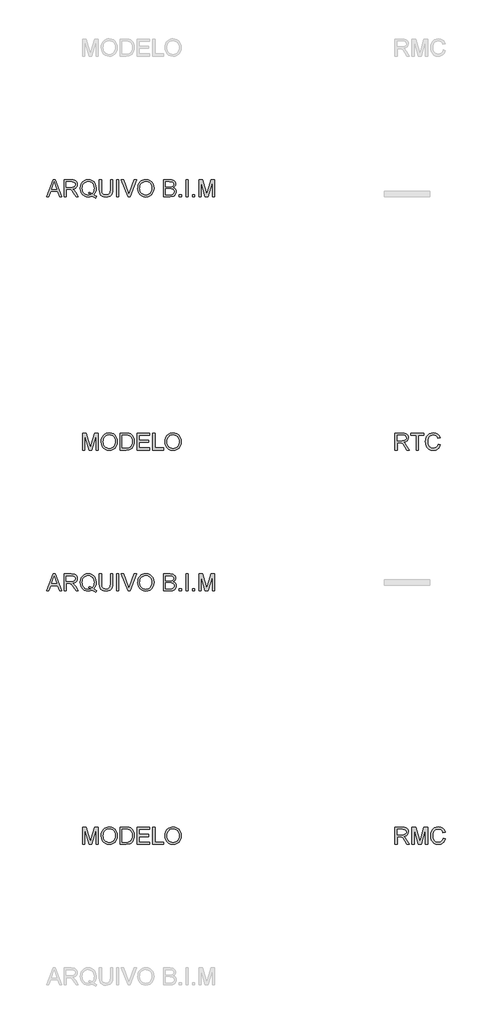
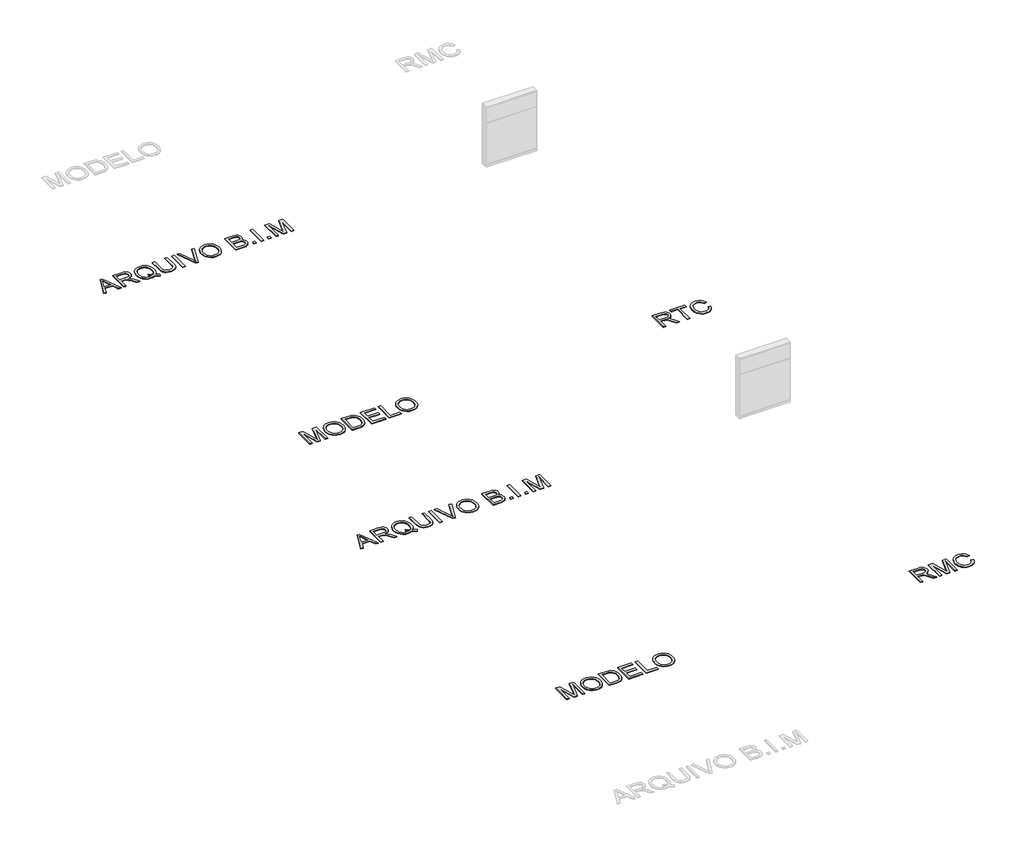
# One storey, part 13 of 15: 6 proxies.
"""IFC4 building model written with IfcOpenShell, lengths in millimetres."""

import ifcopenshell
import ifcopenshell.guid

model = None  # the IFC model being written
_history = None  # IfcOwnerHistory: only IFC2X3 demands one
_inside = {}  # id of a spatial element -> (the spatial element, [elements in it])
_under = {}  # id of a project, library or spatial element -> (it, [spatial elements below it])
_declared = {}  # id of a project -> (the project, [libraries it declares])
_typed = {}  # id of a type object -> (the type object, [elements of that type])
_made_of = {}  # id of a material, layer set ... -> (it, [elements and type objects made of it])


def new_model(schema):
    """Start an empty IFC model of exactly this schema.

    Asked for "IFC4X3", IfcOpenShell would pick the latest addendum, in which some entities
    have other attributes; the version numbers below select the first issue.
    IFC2X3 requires an IfcOwnerHistory on every rooted entity: one is made here for all.
    """
    global model, _history
    if schema == "IFC4X3":
        model = ifcopenshell.file(schema_version=(4, 3, 0, 0))
    else:
        model = ifcopenshell.file(schema=schema)
    _inside.clear()
    _under.clear()
    _declared.clear()
    _typed.clear()
    _made_of.clear()
    _history = None
    if model.schema == "IFC2X3":
        org = make("IfcOrganization", Name="unknown")
        user = make(
            "IfcPersonAndOrganization",
            ThePerson=make("IfcPerson", FamilyName="unknown"),
            TheOrganization=org,
        )
        app = make(
            "IfcApplication",
            ApplicationDeveloper=org,
            Version="unknown",
            ApplicationFullName="unknown",
            ApplicationIdentifier="unknown",
        )
        _history = make(
            "IfcOwnerHistory",
            OwningUser=user,
            OwningApplication=app,
            ChangeAction="ADDED",
            CreationDate=0,
        )
    return model


def make(cls, **values):
    """One entity of the class cls with the attributes given. An attribute that is None is left unset."""
    return model.create_entity(
        cls, **{name: value for name, value in values.items() if value is not None}
    )


def rooted(cls, **values):
    """An entity with a GlobalId (a new one), such as an element, a storey or a relation."""
    return make(cls, GlobalId=ifcopenshell.guid.new(), OwnerHistory=_history, **values)


def si_unit(unit_type, name, prefix=None):
    """IfcSIUnit, for example si_unit("LENGTHUNIT", "METRE", prefix="MILLI")."""
    return make("IfcSIUnit", UnitType=unit_type, Prefix=prefix, Name=name)


def assignment(units):
    """IfcUnitAssignment: the units of a project."""
    return None if units is None else make("IfcUnitAssignment", Units=units)


def point(xyz):
    """IfcCartesianPoint."""
    return None if xyz is None else make("IfcCartesianPoint", Coordinates=xyz)


def direction(xyz):
    """IfcDirection."""
    return None if xyz is None else make("IfcDirection", DirectionRatios=xyz)


def frame(location, z_axis=None, x_axis=None):
    """IfcAxis2Placement3D, a coordinate frame: its origin and axes. An axis left out is left unset."""
    return make(
        "IfcAxis2Placement3D",
        Location=point(location),
        Axis=direction(z_axis),
        RefDirection=direction(x_axis),
    )


def origin():
    """The frame at (0, 0, 0) with its axes left unset."""
    return frame((0.0, 0.0, 0.0))


def origin_with_axes():
    """The frame at (0, 0, 0) with the z axis (0, 0, 1) and the x axis (1, 0, 0) written out."""
    return frame((0.0, 0.0, 0.0), z_axis=(0.0, 0.0, 1.0), x_axis=(1.0, 0.0, 0.0))


def place(relative_to, where):
    """IfcLocalPlacement: puts the frame where relative to a parent placement (None: the world)."""
    return make(
        "IfcLocalPlacement", PlacementRelTo=relative_to, RelativePlacement=where
    )


def context(
    kind, dimensions, precision=None, world=None, true_north=None, identifier=None
):
    """IfcGeometricRepresentationContext, for example the 3D "Model" context."""
    return make(
        "IfcGeometricRepresentationContext",
        ContextIdentifier=identifier,
        ContextType=kind,
        CoordinateSpaceDimension=dimensions,
        Precision=precision,
        WorldCoordinateSystem=world,
        TrueNorth=true_north,
    )


def project(units=None, contexts=None):
    """IfcProject with its units and contexts."""
    return rooted(
        "IfcProject",
        Name="project",
        RepresentationContexts=contexts,
        UnitsInContext=assignment(units),
    )


def spatial(cls, under=None, at=None, **own):
    """A site, building, storey or space (cls), placed at a placement, below another one or the project."""
    s = rooted(cls, ObjectPlacement=at, **own)
    if under is not None:
        _under.setdefault(under.id(), (under, []))[1].append(s)
    return s


def polyline(points):
    """IfcPolyline through the points."""
    return make("IfcPolyline", Points=[point(p) for p in points])


def outline(outer, holes=None, kind="AREA"):
    """IfcArbitraryClosedProfileDef: a profile drawn as a closed curve; with holes, ...WithVoids."""
    if holes is None:
        return make("IfcArbitraryClosedProfileDef", ProfileType=kind, OuterCurve=outer)
    return make(
        "IfcArbitraryProfileDefWithVoids",
        ProfileType=kind,
        OuterCurve=outer,
        InnerCurves=holes,
    )


def extrude(swept, where, along, depth):
    """IfcExtrudedAreaSolid: the profile swept, set in the frame where, extruded along a direction by depth."""
    return make(
        "IfcExtrudedAreaSolid",
        SweptArea=swept,
        Position=where,
        ExtrudedDirection=direction(along),
        Depth=depth,
    )


def shape(context_of_items, identifier, shape_type, items):
    """IfcShapeRepresentation: the items that make up one representation, for example the "Body"."""
    return make(
        "IfcShapeRepresentation",
        ContextOfItems=context_of_items,
        RepresentationIdentifier=identifier,
        RepresentationType=shape_type,
        Items=items,
    )


def made_of(thing, what):
    """Note that an element or type object is made of a material, layer set ...; save() writes the relation."""
    if what is not None:
        _made_of.setdefault(what.id(), (what, []))[1].append(thing)
    return thing


def element(
    cls,
    number,
    at=None,
    inside=None,
    cuts=None,
    type_object=None,
    material=None,
    context=None,
    identifier="Body",
    shape_type=None,
    held_by="IfcProductDefinitionShape",
    body=None,
    shapes=None,
    **own,
):
    """One element of the class cls, such as IfcWall. Its Tag is "e" and its number.

    at: its placement. inside: the storey or other place that contains it. cuts: it is an
    opening in that element (IfcRelVoidsElement). A single representation is given by context,
    identifier, shape_type and body (its items); several are given by shapes. held_by: the class
    of the entity that holds the representations. save() writes the other relations.
    """
    e = rooted(cls, Tag="e%d" % number, ObjectPlacement=at, **own)
    if body is not None:
        shapes = [shape(context, identifier, shape_type, body)]
    if shapes is not None:
        e.Representation = make(held_by, Representations=shapes)
    if inside is not None:
        _inside.setdefault(inside.id(), (inside, []))[1].append(e)
    if cuts is not None:
        rooted(
            "IfcRelVoidsElement", RelatingBuildingElement=cuts, RelatedOpeningElement=e
        )
    if type_object is not None:
        _typed.setdefault(type_object.id(), (type_object, []))[1].append(e)
    return made_of(e, material)


def aggregate(whole, parts):
    """IfcRelAggregates: a whole, such as a stair, and the parts it consists of."""
    return rooted("IfcRelAggregates", RelatingObject=whole, RelatedObjects=parts)


def save(model, path):
    """Write the relations noted so far, then the file.

    IfcRelAggregates (storeys below a building ...), IfcRelContainedInSpatialStructure (elements
    in a storey), IfcRelDefinesByType, IfcRelAssociatesMaterial and IfcRelDeclares: one each for
    every whole, place, type object, material and project.
    """
    for whole, parts in _under.values():
        aggregate(whole, parts)
    for where, things in _inside.values():
        rooted(
            "IfcRelContainedInSpatialStructure",
            RelatedElements=things,
            RelatingStructure=where,
        )
    for kind, things in _typed.values():
        rooted("IfcRelDefinesByType", RelatedObjects=things, RelatingType=kind)
    for what, things in _made_of.values():
        rooted("IfcRelAssociatesMaterial", RelatedObjects=things, RelatingMaterial=what)
    for by, libraries in _declared.values():
        rooted("IfcRelDeclares", RelatingContext=by, RelatedDefinitions=libraries)
    model.write(path)


model = new_model("IFC4")

# Units and contexts
model_context = context("Model", 3, world=origin())
ifc_project = project(units=[si_unit("LENGTHUNIT", "METRE", prefix="MILLI")], contexts=[model_context])

# Site, building, storey
site = spatial("IfcSite", under=ifc_project)
building = spatial("IfcBuilding", under=site)
storey = spatial("IfcBuildingStorey", under=building, Name="Marelli - Linha REASONS - Planta Baixa", Elevation=0.0)

# Proxies
placement = place(None, origin())
element("IfcBuildingElementProxy", 1, Name="300mm Arial", ObjectType="300mm Arial", at=placement, inside=storey, context=model_context, shape_type="SweptSolid", body=[
    extrude(outline(polyline([(9390.580402, -14280.5663201), (9510.8778144, -13979.1973896), (9542.9571244, -13979.1973896), (9663.2545368, -14280.5663201), (9623.449705, -14280.5663201), (9588.9423738, -14186.3885293), (9464.8189886, -14186.3885293), (9430.3852339, -14280.5663201), (9390.580402, -14280.5663201)]), holes=[polyline([(9478.6513517, -14148.717413), (9575.1835872, -14148.717413), (9548.0338959, -14074.6259792), (9526.9174694, -14016.8685059), (9508.1554877, -14068.1512561), (9478.6513517, -14148.717413)])]), origin_with_axes(), (0.0, 0.0, 1.0), 10.0),
    extrude(outline(polyline([(9703.5008271, -14280.5663201), (9703.5008271, -13979.1973896), (9833.3631714, -13979.1973896), (9868.2659757, -13981.2299376), (9893.6590304, -13987.3275817), (9912.2186771, -13998.5847708), (9926.6212572, -14016.0959537), (9935.8642923, -14037.8101885), (9938.945304, -14061.6765329), (9933.8409413, -14091.3646099), (9918.5278533, -14115.9759154), (9906.9280741, -14126.0052983), (9892.5461874, -14134.0205273), (9855.4360911, -14144.0085235), (9876.8468232, -14160.1217548), (9907.3810288, -14198.8965171), (9957.6337094, -14280.5663201), (9913.855752, -14280.5663201), (9874.6395313, -14218.0999573), (9846.3126176, -14176.750021), (9826.4102017, -14157.2154871), (9808.4943485, -14150.0417882), (9786.642158, -14148.717413), (9741.1719434, -14148.717413), (9741.1719434, -14280.5663201), (9703.5008271, -14280.5663201)]), holes=[polyline([(9741.1719434, -14111.0462967), (9825.4904967, -14111.0462967), (9849.706329, -14109.7127245), (9868.4959019, -14105.7120078), (9882.6409647, -14098.7774322), (9892.9232664, -14088.6422832), (9899.1864574, -14076.3826157), (9901.2741877, -14063.0744845), (9897.2918651, -14044.6987789), (9885.3448973, -14029.8915286), (9864.7894908, -14020.1242616), (9834.9818522, -14016.8685059), (9741.1719434, -14016.8685059), (9741.1719434, -14111.0462967)])]), origin_with_axes(), (0.0, 0.0, 1.0), 10.0),
    extrude(outline(polyline([(10231.2643374, -14244.4403081), (10255.5997314, -14263.036743), (10277.9853508, -14275.8574305), (10267.8318077, -14303.4485802), (10236.7641732, -14289.0460001), (10205.8069033, -14268.205485), (10170.9500843, -14281.0077785), (10132.5983863, -14285.2752096), (10094.0627473, -14280.3547879), (10059.2427164, -14265.5935229), (10030.0788713, -14241.9203165), (10008.5117893, -14210.2640708), (9995.185264, -14172.3630282), (9990.7430889, -14129.9554312), (9995.176067, -14087.511046), (10008.4750011, -14049.0581805), (10029.9593096, -14016.9512794), (10058.9484108, -13993.5447874), (10093.639683, -13979.2525719), (10132.2305043, -13974.4885001), (10171.1248282, -13979.3629365), (10205.9908443, -13993.9862458), (10234.9339603, -14017.3835407), (10256.0595839, -14048.5799339), (10268.9722419, -14085.9199564), (10273.2764612, -14127.7481393), (10270.6644991, -14162.5313819), (10262.8286126, -14193.5990164), (10249.7136194, -14220.9142546), (10231.2643374, -14244.4403081)]), holes=[polyline([(10142.9726585, -14194.3347804), (10174.6472983, -14206.3093393), (10200.215097, -14222.9559996), (10215.6983305, -14205.4816049), (10226.7577829, -14184.1076609), (10233.3934544, -14158.8341679), (10235.6053449, -14129.6611256), (10232.478348, -14096.5057608), (10223.0973571, -14067.8201623), (10207.6922985, -14044.3308969), (10186.4930986, -14026.7645316), (10160.934497, -14015.8108452), (10132.4512335, -14012.1596164), (10110.966925, -14014.0059242), (10091.3956028, -14019.5448474), (10073.7372671, -14028.7763863), (10057.9919177, -14041.7005406), (10045.0516685, -14058.2897193), (10035.8086334, -14078.5163313), (10030.2628123, -14102.3803764), (10028.4142052, -14129.8818548), (10030.2421189, -14156.6659634), (10035.7258599, -14180.1437324), (10044.8654282, -14200.3151621), (10057.6608239, -14217.1802523), (10073.2981079, -14230.4906827), (10090.9633415, -14239.9981331), (10110.6565245, -14245.7026032), (10132.3776571, -14247.6040933), (10153.2917485, -14245.6727128), (10172.918253, -14239.8785714), (10153.6228423, -14229.853787), (10133.2605739, -14223.1767288), (10142.9726585, -14194.3347804)])]), origin_with_axes(), (0.0, 0.0, 1.0), 10.0),
    extrude(outline(polyline([(10527.5564963, -13979.1973896), (10565.2276126, -13979.1973896), (10565.2276126, -14153.0584205), (10562.6708327, -14193.7737604), (10555.0004931, -14225.1265034), (10540.6714894, -14249.3147446), (10518.1387172, -14268.5365788), (10487.3469942, -14281.0905519), (10448.2411381, -14285.2752096), (10409.9906077, -14281.6331779), (10379.4104168, -14270.7070826), (10356.4913685, -14252.8740029), (10341.2242657, -14228.5110178), (10332.6434182, -14195.8338995), (10329.7831357, -14153.0584205), (10329.7831357, -13979.1973896), (10367.454252, -13979.1973896), (10367.454252, -14151.7340454), (10369.3120561, -14185.588386), (10374.8854683, -14209.1604248), (10384.9838291, -14225.4851883), (10400.4164788, -14237.597703), (10420.5396239, -14245.1024957), (10444.709471, -14247.6040933), (10483.0243808, -14242.6560805), (10497.3671801, -14236.4710644), (10508.500209, -14227.812042), (10516.8373347, -14215.6351479), (10522.7924245, -14198.8965171), (10527.5564963, -14151.7340454), (10527.5564963, -13979.1973896)])), origin_with_axes(), (0.0, 0.0, 1.0), 10.0),
    extrude(outline(polyline([(10635.8609557, -14280.5663201), (10635.8609557, -13979.1973896), (10673.532072, -13979.1973896), (10673.532072, -14280.5663201), (10635.8609557, -14280.5663201)])), origin_with_axes(), (0.0, 0.0, 1.0), 10.0),
    extrude(outline(polyline([(10837.9017474, -14280.5663201), (10717.972217, -13979.1973896), (10758.2920837, -13979.1973896), (10838.563935, -14196.3213432), (10854.8243192, -14245.2496485), (10870.8639742, -14196.3213432), (10951.3565547, -13979.1973896), (10991.6764214, -13979.1973896), (10876.8236625, -14280.5663201), (10837.9017474, -14280.5663201)])), origin_with_axes(), (0.0, 0.0, 1.0), 10.0),
    extrude(outline(polyline([(11012.5721187, -14133.8549804), (11015.0829134, -14098.5061192), (11022.6152972, -14067.213157), (11035.1692703, -14039.9760937), (11052.7448326, -14016.7949295), (11074.288922, -13998.2858666), (11098.7484761, -13985.0651074), (11126.1234951, -13977.1326519), (11156.4139789, -13974.4885001), (11195.9428992, -13979.454907), (11231.3883295, -13994.3541278), (11260.8188891, -14018.1376988), (11282.3031976, -14049.7571563), (11295.4365848, -14087.68579), (11299.8143806, -14130.3968896), (11295.2066586, -14173.6782064), (11281.3834926, -14212.140269), (11259.1082378, -14243.8149088), (11229.1442493, -14266.733957), (11194.0023217, -14280.6398965), (11156.1932497, -14285.2752096), (11116.057324, -14280.1524528), (11080.4095587, -14264.7841825), (11051.0525754, -14240.5591531), (11029.7889961, -14208.8661192), (11016.8763381, -14172.3998164), (11012.5721187, -14133.8549804)]), holes=[polyline([(11050.2432351, -14134.2228624), (11052.126331, -14159.1974513), (11057.7756189, -14181.3669401), (11067.1910987, -14200.7313286), (11080.3727705, -14217.2906169), (11096.3963306, -14230.5527628), (11114.3374757, -14240.0257242), (11134.1962056, -14245.709501), (11155.9725205, -14247.6040933), (11178.1213158, -14245.6911069), (11198.2145706, -14239.9521478), (11216.2522846, -14230.3872159), (11232.2344581, -14216.9963113), (11245.3195608, -14200.0875351), (11254.6660627, -14179.9689885), (11260.2739639, -14156.6406715), (11262.1432643, -14130.102584), (11258.9426909, -14096.7540812), (11249.3409708, -14067.9305269), (11233.5864244, -14044.358488), (11211.9273719, -14026.7645316), (11185.7985532, -14015.8108452), (11156.6347081, -14012.1596164), (11135.6148506, -14013.9185522), (11116.1125063, -14019.1953595), (11098.1276752, -14027.9900385), (11081.6603574, -14040.302589), (11067.9153664, -14056.7262208), (11058.0975156, -14077.8541437), (11052.2068052, -14103.6863575), (11050.2432351, -14134.2228624)])]), origin_with_axes(), (0.0, 0.0, 1.0), 10.0),
    extrude(outline(polyline([(11469.334404, -14280.5663201), (11469.334404, -13979.1973896), (11584.3343157, -13979.1973896), (11615.9629702, -13981.4138786), (11640.6570491, -13988.0633457), (11659.5845778, -13999.3113377), (11673.9135815, -14015.3234015), (11682.9358874, -14034.1589597), (11685.9433227, -14053.8774346), (11683.414134, -14072.0232141), (11675.8265679, -14089.0837416), (11663.125442, -14104.0105535), (11645.2555741, -14115.7551862), (11666.6019268, -14126.9020107), (11682.3748674, -14143.8613707), (11692.1145432, -14165.5112261), (11695.3611018, -14190.7295368), (11693.1446128, -14211.7447958), (11686.4951457, -14231.2333445), (11676.5715289, -14247.8064284), (11664.5325906, -14260.0752929), (11649.7897196, -14268.9596431), (11631.7543048, -14275.3791839), (11583.4513989, -14280.5663201), (11469.334404, -14280.5663201)]), holes=[polyline([(11507.0055203, -14101.6285176), (11575.7994534, -14101.6285176), (11615.9721672, -14098.3911561), (11630.0344565, -14092.8085468), (11640.1420143, -14084.4484284), (11646.2396584, -14073.4395597), (11648.2722064, -14059.9106994), (11646.3776141, -14046.7773121), (11640.6938373, -14035.3361821), (11631.4783933, -14026.4058467), (11618.9887996, -14020.8048433), (11570.575529, -14016.8685059), (11507.0055203, -14016.8685059), (11507.0055203, -14101.6285176)]), polyline([(11507.0055203, -14242.8952038), (11584.2607393, -14242.8952038), (11612.2197709, -14241.4236758), (11635.8745832, -14233.2199073), (11651.5463562, -14216.4812765), (11656.1540782, -14204.6538704), (11657.6899855, -14191.0974188), (11655.8873637, -14175.3520694), (11650.4794984, -14161.814012), (11641.0341282, -14151.2282076), (11627.1189917, -14144.3396173), (11607.4097138, -14140.5596298), (11580.5819193, -14139.2996339), (11507.0055203, -14139.2996339), (11507.0055203, -14242.8952038)])]), origin_with_axes(), (0.0, 0.0, 1.0), 10.0),
    extrude(outline(polyline([(11751.8677763, -14280.5663201), (11751.8677763, -14242.8952038), (11789.5388926, -14242.8952038), (11789.5388926, -14280.5663201), (11751.8677763, -14280.5663201)])), origin_with_axes(), (0.0, 0.0, 1.0), 10.0),
    extrude(outline(polyline([(11869.5900147, -14280.5663201), (11869.5900147, -13979.1973896), (11907.261131, -13979.1973896), (11907.261131, -14280.5663201), (11869.5900147, -14280.5663201)])), origin_with_axes(), (0.0, 0.0, 1.0), 10.0),
    extrude(outline(polyline([(11987.3122532, -14280.5663201), (11987.3122532, -14242.8952038), (12024.9833695, -14242.8952038), (12024.9833695, -14280.5663201), (11987.3122532, -14280.5663201)])), origin_with_axes(), (0.0, 0.0, 1.0), 10.0),
    extrude(outline(polyline([(12100.3256021, -14280.5663201), (12100.3256021, -13979.1973896), (12165.1464096, -13979.1973896), (12226.803432, -14191.6124536), (12239.2378435, -14235.9790223), (12252.7023245, -14187.9336337), (12313.3292773, -13979.1973896), (12378.1500848, -13979.1973896), (12378.1500848, -14280.5663201), (12340.4789685, -14280.5663201), (12340.4789685, -14016.8685059), (12264.7688539, -14280.5663201), (12213.706833, -14280.5663201), (12137.9967184, -14016.8685059), (12137.9967184, -14280.5663201), (12100.3256021, -14280.5663201)])), origin_with_axes(), (0.0, 0.0, 1.0), 10.0),
])
element("IfcBuildingElementProxy", 2, Name="300mm Arial", ObjectType="300mm Arial", at=placement, inside=storey, context=model_context, shape_type="SweptSolid", body=[
    extrude(outline(polyline([(10033.1230948, -11780.5663201), (10033.1230948, -11479.1973896), (10097.9439023, -11479.1973896), (10159.6009247, -11691.6124536), (10172.0353362, -11735.9790223), (10185.4998172, -11687.9336337), (10246.12677, -11479.1973896), (10310.9475775, -11479.1973896), (10310.9475775, -11780.5663201), (10273.2764612, -11780.5663201), (10273.2764612, -11516.8685059), (10197.5663466, -11780.5663201), (10146.5043257, -11780.5663201), (10070.7942111, -11516.8685059), (10070.7942111, -11780.5663201), (10033.1230948, -11780.5663201)])), origin_with_axes(), (0.0, 0.0, 1.0), 10.0),
    extrude(outline(polyline([(10362.7453625, -11633.8549804), (10365.2561571, -11598.5061192), (10372.7885409, -11567.213157), (10385.342514, -11539.9760937), (10402.9180763, -11516.7949295), (10424.4621657, -11498.2858666), (10448.9217198, -11485.0651074), (10476.2967388, -11477.1326519), (10506.5872226, -11474.4885001), (10546.116143, -11479.454907), (10581.5615732, -11494.3541278), (10610.9921328, -11518.1376988), (10632.4764413, -11549.7571563), (10645.6098286, -11587.68579), (10649.9876243, -11630.3968896), (10645.3799023, -11673.6782064), (10631.5567363, -11712.140269), (10609.2814815, -11743.8149088), (10579.317493, -11766.733957), (10544.1755654, -11780.6398965), (10506.3664934, -11785.2752096), (10466.2305677, -11780.1524528), (10430.5828024, -11764.7841825), (10401.2258192, -11740.5591531), (10379.9622398, -11708.8661192), (10367.0495818, -11672.3998164), (10362.7453625, -11633.8549804)]), holes=[polyline([(10400.4164788, -11634.2228624), (10402.2995747, -11659.1974513), (10407.9488626, -11681.3669401), (10417.3643424, -11700.7313286), (10430.5460142, -11717.2906169), (10446.5695743, -11730.5527628), (10464.5107194, -11740.0257242), (10484.3694493, -11745.709501), (10506.1457642, -11747.6040933), (10528.2945596, -11745.6911069), (10548.3878143, -11739.9521478), (10566.4255284, -11730.3872159), (10582.4077018, -11716.9963113), (10595.4928045, -11700.0875351), (10604.8393064, -11679.9689885), (10610.4472076, -11656.6406715), (10612.316508, -11630.102584), (10609.1159346, -11596.7540812), (10599.5142146, -11567.9305269), (10583.7596681, -11544.358488), (10562.1006157, -11526.7645316), (10535.9717969, -11515.8108452), (10506.8079518, -11512.1596164), (10485.7880943, -11513.9185522), (10466.28575, -11519.1953595), (10448.300919, -11527.9900385), (10431.8336012, -11540.302589), (10418.0886101, -11556.7262208), (10408.2707594, -11577.8541437), (10402.3800489, -11603.6863575), (10400.4164788, -11634.2228624)])]), origin_with_axes(), (0.0, 0.0, 1.0), 10.0),
    extrude(outline(polyline([(10701.7854092, -11780.5663201), (10701.7854092, -11479.1973896), (10805.7488611, -11479.1973896), (10859.5332088, -11483.5383972), (10883.555903, -11491.9077126), (10903.826201, -11505.0962821), (10924.666716, -11528.0521186), (10939.5107545, -11556.5997614), (10948.3951047, -11590.1873876), (10951.3565547, -11628.2631741), (10949.3515979, -11660.6091985), (10943.3367273, -11689.0740679), (10934.1764656, -11713.3082943), (10922.7353355, -11732.9623899), (10909.5651601, -11748.477813), (10895.2177623, -11760.2960221), (10878.745846, -11769.0608107), (10859.202115, -11775.4159721), (10810.7520562, -11780.5663201), (10701.7854092, -11780.5663201)]), holes=[polyline([(10739.4565255, -11742.8952038), (10806.1167431, -11742.8952038), (10833.6894986, -11741.5340404), (10854.60359, -11737.4505502), (10870.3857276, -11730.8838566), (10882.5626217, -11722.0730828), (10895.6500236, -11705.7667134), (10905.48167, -11684.6594839), (10911.6344963, -11658.6594239), (10913.6854384, -11627.6745629), (10909.6663276, -11586.6189322), (10897.6089953, -11556.3054558), (10879.7943096, -11535.4833349), (10858.5031392, -11522.9017706), (10836.8348897, -11518.3768221), (10805.0866735, -11516.8685059), (10739.4565255, -11516.8685059), (10739.4565255, -11742.8952038)])]), origin_with_axes(), (0.0, 0.0, 1.0), 10.0),
    extrude(outline(polyline([(11003.1543397, -11780.5663201), (11003.1543397, -11479.1973896), (11219.7632584, -11479.1973896), (11219.7632584, -11516.8685059), (11040.825456, -11516.8685059), (11040.825456, -11606.3374072), (11210.3454794, -11606.3374072), (11210.3454794, -11644.0085235), (11040.825456, -11644.0085235), (11040.825456, -11742.8952038), (11224.472148, -11742.8952038), (11224.472148, -11780.5663201), (11003.1543397, -11780.5663201)])), origin_with_axes(), (0.0, 0.0, 1.0), 10.0),
    extrude(outline(polyline([(11280.9788224, -11780.5663201), (11280.9788224, -11479.1973896), (11318.6499387, -11479.1973896), (11318.6499387, -11742.8952038), (11469.334404, -11742.8952038), (11469.334404, -11780.5663201), (11280.9788224, -11780.5663201)])), origin_with_axes(), (0.0, 0.0, 1.0), 10.0),
    extrude(outline(polyline([(11497.5877412, -11633.8549804), (11500.0985358, -11598.5061192), (11507.6309197, -11567.213157), (11520.1848927, -11539.9760937), (11537.7604551, -11516.7949295), (11559.3045444, -11498.2858666), (11583.7640986, -11485.0651074), (11611.1391175, -11477.1326519), (11641.4296013, -11474.4885001), (11680.9585217, -11479.454907), (11716.4039519, -11494.3541278), (11745.8345115, -11518.1376988), (11767.3188201, -11549.7571563), (11780.4522073, -11587.68579), (11784.830003, -11630.3968896), (11780.222281, -11673.6782064), (11766.3991151, -11712.140269), (11744.1238603, -11743.8149088), (11714.1598717, -11766.733957), (11679.0179442, -11780.6398965), (11641.2088721, -11785.2752096), (11601.0729464, -11780.1524528), (11565.4251811, -11764.7841825), (11536.0681979, -11740.5591531), (11514.8046186, -11708.8661192), (11501.8919605, -11672.3998164), (11497.5877412, -11633.8549804)]), holes=[polyline([(11535.2588575, -11634.2228624), (11537.1419535, -11659.1974513), (11542.7912413, -11681.3669401), (11552.2067212, -11700.7313286), (11565.3883929, -11717.2906169), (11581.4119531, -11730.5527628), (11599.3530981, -11740.0257242), (11619.2118281, -11745.709501), (11640.9881429, -11747.6040933), (11663.1369383, -11745.6911069), (11683.230193, -11739.9521478), (11701.2679071, -11730.3872159), (11717.2500805, -11716.9963113), (11730.3351832, -11700.0875351), (11739.6816852, -11679.9689885), (11745.2895863, -11656.6406715), (11747.1588867, -11630.102584), (11743.9583134, -11596.7540812), (11734.3565933, -11567.9305269), (11718.6020468, -11544.358488), (11696.9429944, -11526.7645316), (11670.8141757, -11515.8108452), (11641.6503305, -11512.1596164), (11620.630473, -11513.9185522), (11601.1281287, -11519.1953595), (11583.1432977, -11527.9900385), (11566.6759799, -11540.302589), (11552.9309888, -11556.7262208), (11543.1131381, -11577.8541437), (11537.2224276, -11603.6863575), (11535.2588575, -11634.2228624)])]), origin_with_axes(), (0.0, 0.0, 1.0), 10.0),
])
element("IfcBuildingElementProxy", 3, Name="300mm Arial", ObjectType="300mm Arial", at=placement, inside=storey, context=model_context, shape_type="SweptSolid", body=[
    extrude(outline(polyline([(9390.580402, -7280.5663201), (9510.8778144, -6979.1973896), (9542.9571244, -6979.1973896), (9663.2545368, -7280.5663201), (9623.449705, -7280.5663201), (9588.9423738, -7186.3885293), (9464.8189886, -7186.3885293), (9430.3852339, -7280.5663201), (9390.580402, -7280.5663201)]), holes=[polyline([(9478.6513517, -7148.717413), (9575.1835872, -7148.717413), (9548.0338959, -7074.6259792), (9526.9174694, -7016.8685059), (9508.1554877, -7068.1512561), (9478.6513517, -7148.717413)])]), origin_with_axes(), (0.0, 0.0, 1.0), 10.0),
    extrude(outline(polyline([(9703.5008271, -7280.5663201), (9703.5008271, -6979.1973896), (9833.3631714, -6979.1973896), (9868.2659757, -6981.2299376), (9893.6590304, -6987.3275817), (9912.2186771, -6998.5847708), (9926.6212572, -7016.0959537), (9935.8642923, -7037.8101885), (9938.945304, -7061.6765329), (9933.8409413, -7091.3646099), (9918.5278533, -7115.9759154), (9906.9280741, -7126.0052983), (9892.5461874, -7134.0205273), (9855.4360911, -7144.0085235), (9876.8468232, -7160.1217548), (9907.3810288, -7198.8965171), (9957.6337094, -7280.5663201), (9913.855752, -7280.5663201), (9874.6395313, -7218.0999573), (9846.3126176, -7176.750021), (9826.4102017, -7157.2154871), (9808.4943485, -7150.0417882), (9786.642158, -7148.717413), (9741.1719434, -7148.717413), (9741.1719434, -7280.5663201), (9703.5008271, -7280.5663201)]), holes=[polyline([(9741.1719434, -7111.0462967), (9825.4904967, -7111.0462967), (9849.706329, -7109.7127245), (9868.4959019, -7105.7120078), (9882.6409647, -7098.7774322), (9892.9232664, -7088.6422832), (9899.1864574, -7076.3826157), (9901.2741877, -7063.0744845), (9897.2918651, -7044.6987789), (9885.3448973, -7029.8915286), (9864.7894908, -7020.1242616), (9834.9818522, -7016.8685059), (9741.1719434, -7016.8685059), (9741.1719434, -7111.0462967)])]), origin_with_axes(), (0.0, 0.0, 1.0), 10.0),
    extrude(outline(polyline([(10231.2643374, -7244.4403081), (10255.5997314, -7263.036743), (10277.9853508, -7275.8574305), (10267.8318077, -7303.4485802), (10236.7641732, -7289.0460001), (10205.8069033, -7268.205485), (10170.9500843, -7281.0077785), (10132.5983863, -7285.2752096), (10094.0627473, -7280.3547879), (10059.2427164, -7265.5935229), (10030.0788713, -7241.9203165), (10008.5117893, -7210.2640708), (9995.185264, -7172.3630282), (9990.7430889, -7129.9554312), (9995.176067, -7087.511046), (10008.4750011, -7049.0581805), (10029.9593096, -7016.9512794), (10058.9484108, -6993.5447874), (10093.639683, -6979.2525719), (10132.2305043, -6974.4885001), (10171.1248282, -6979.3629365), (10205.9908443, -6993.9862458), (10234.9339603, -7017.3835407), (10256.0595839, -7048.5799339), (10268.9722419, -7085.9199564), (10273.2764612, -7127.7481393), (10270.6644991, -7162.5313819), (10262.8286126, -7193.5990164), (10249.7136194, -7220.9142546), (10231.2643374, -7244.4403081)]), holes=[polyline([(10142.9726585, -7194.3347804), (10174.6472983, -7206.3093393), (10200.215097, -7222.9559996), (10215.6983305, -7205.4816049), (10226.7577829, -7184.1076609), (10233.3934544, -7158.8341679), (10235.6053449, -7129.6611256), (10232.478348, -7096.5057608), (10223.0973571, -7067.8201623), (10207.6922985, -7044.3308969), (10186.4930986, -7026.7645316), (10160.934497, -7015.8108452), (10132.4512335, -7012.1596164), (10110.966925, -7014.0059242), (10091.3956028, -7019.5448474), (10073.7372671, -7028.7763863), (10057.9919177, -7041.7005406), (10045.0516685, -7058.2897193), (10035.8086334, -7078.5163313), (10030.2628123, -7102.3803764), (10028.4142052, -7129.8818548), (10030.2421189, -7156.6659634), (10035.7258599, -7180.1437324), (10044.8654282, -7200.3151621), (10057.6608239, -7217.1802523), (10073.2981079, -7230.4906827), (10090.9633415, -7239.9981331), (10110.6565245, -7245.7026032), (10132.3776571, -7247.6040933), (10153.2917485, -7245.6727128), (10172.918253, -7239.8785714), (10153.6228423, -7229.853787), (10133.2605739, -7223.1767288), (10142.9726585, -7194.3347804)])]), origin_with_axes(), (0.0, 0.0, 1.0), 10.0),
    extrude(outline(polyline([(10527.5564963, -6979.1973896), (10565.2276126, -6979.1973896), (10565.2276126, -7153.0584205), (10562.6708327, -7193.7737604), (10555.0004931, -7225.1265034), (10540.6714894, -7249.3147446), (10518.1387172, -7268.5365788), (10487.3469942, -7281.0905519), (10448.2411381, -7285.2752096), (10409.9906077, -7281.6331779), (10379.4104168, -7270.7070826), (10356.4913685, -7252.8740029), (10341.2242657, -7228.5110178), (10332.6434182, -7195.8338995), (10329.7831357, -7153.0584205), (10329.7831357, -6979.1973896), (10367.454252, -6979.1973896), (10367.454252, -7151.7340454), (10369.3120561, -7185.588386), (10374.8854683, -7209.1604248), (10384.9838291, -7225.4851883), (10400.4164788, -7237.597703), (10420.5396239, -7245.1024957), (10444.709471, -7247.6040933), (10483.0243808, -7242.6560805), (10497.3671801, -7236.4710644), (10508.500209, -7227.812042), (10516.8373347, -7215.6351479), (10522.7924245, -7198.8965171), (10527.5564963, -7151.7340454), (10527.5564963, -6979.1973896)])), origin_with_axes(), (0.0, 0.0, 1.0), 10.0),
    extrude(outline(polyline([(10635.8609557, -7280.5663201), (10635.8609557, -6979.1973896), (10673.532072, -6979.1973896), (10673.532072, -7280.5663201), (10635.8609557, -7280.5663201)])), origin_with_axes(), (0.0, 0.0, 1.0), 10.0),
    extrude(outline(polyline([(10837.9017474, -7280.5663201), (10717.972217, -6979.1973896), (10758.2920837, -6979.1973896), (10838.563935, -7196.3213432), (10854.8243192, -7245.2496485), (10870.8639742, -7196.3213432), (10951.3565547, -6979.1973896), (10991.6764214, -6979.1973896), (10876.8236625, -7280.5663201), (10837.9017474, -7280.5663201)])), origin_with_axes(), (0.0, 0.0, 1.0), 10.0),
    extrude(outline(polyline([(11012.5721187, -7133.8549804), (11015.0829134, -7098.5061192), (11022.6152972, -7067.213157), (11035.1692703, -7039.9760937), (11052.7448326, -7016.7949295), (11074.288922, -6998.2858666), (11098.7484761, -6985.0651074), (11126.1234951, -6977.1326519), (11156.4139789, -6974.4885001), (11195.9428992, -6979.454907), (11231.3883295, -6994.3541278), (11260.8188891, -7018.1376988), (11282.3031976, -7049.7571563), (11295.4365848, -7087.68579), (11299.8143806, -7130.3968896), (11295.2066586, -7173.6782064), (11281.3834926, -7212.140269), (11259.1082378, -7243.8149088), (11229.1442493, -7266.733957), (11194.0023217, -7280.6398965), (11156.1932497, -7285.2752096), (11116.057324, -7280.1524528), (11080.4095587, -7264.7841825), (11051.0525754, -7240.5591531), (11029.7889961, -7208.8661192), (11016.8763381, -7172.3998164), (11012.5721187, -7133.8549804)]), holes=[polyline([(11050.2432351, -7134.2228624), (11052.126331, -7159.1974513), (11057.7756189, -7181.3669401), (11067.1910987, -7200.7313286), (11080.3727705, -7217.2906169), (11096.3963306, -7230.5527628), (11114.3374757, -7240.0257242), (11134.1962056, -7245.709501), (11155.9725205, -7247.6040933), (11178.1213158, -7245.6911069), (11198.2145706, -7239.9521478), (11216.2522846, -7230.3872159), (11232.2344581, -7216.9963113), (11245.3195608, -7200.0875351), (11254.6660627, -7179.9689885), (11260.2739639, -7156.6406715), (11262.1432643, -7130.102584), (11258.9426909, -7096.7540812), (11249.3409708, -7067.9305269), (11233.5864244, -7044.358488), (11211.9273719, -7026.7645316), (11185.7985532, -7015.8108452), (11156.6347081, -7012.1596164), (11135.6148506, -7013.9185522), (11116.1125063, -7019.1953595), (11098.1276752, -7027.9900385), (11081.6603574, -7040.302589), (11067.9153664, -7056.7262208), (11058.0975156, -7077.8541437), (11052.2068052, -7103.6863575), (11050.2432351, -7134.2228624)])]), origin_with_axes(), (0.0, 0.0, 1.0), 10.0),
    extrude(outline(polyline([(11469.334404, -7280.5663201), (11469.334404, -6979.1973896), (11584.3343157, -6979.1973896), (11615.9629702, -6981.4138786), (11640.6570491, -6988.0633457), (11659.5845778, -6999.3113377), (11673.9135815, -7015.3234015), (11682.9358874, -7034.1589597), (11685.9433227, -7053.8774346), (11683.414134, -7072.0232141), (11675.8265679, -7089.0837416), (11663.125442, -7104.0105535), (11645.2555741, -7115.7551862), (11666.6019268, -7126.9020107), (11682.3748674, -7143.8613707), (11692.1145432, -7165.5112261), (11695.3611018, -7190.7295368), (11693.1446128, -7211.7447958), (11686.4951457, -7231.2333445), (11676.5715289, -7247.8064284), (11664.5325906, -7260.0752929), (11649.7897196, -7268.9596431), (11631.7543048, -7275.3791839), (11583.4513989, -7280.5663201), (11469.334404, -7280.5663201)]), holes=[polyline([(11507.0055203, -7101.6285176), (11575.7994534, -7101.6285176), (11615.9721672, -7098.3911561), (11630.0344565, -7092.8085468), (11640.1420143, -7084.4484284), (11646.2396584, -7073.4395597), (11648.2722064, -7059.9106994), (11646.3776141, -7046.7773121), (11640.6938373, -7035.3361821), (11631.4783933, -7026.4058467), (11618.9887996, -7020.8048433), (11570.575529, -7016.8685059), (11507.0055203, -7016.8685059), (11507.0055203, -7101.6285176)]), polyline([(11507.0055203, -7242.8952038), (11584.2607393, -7242.8952038), (11612.2197709, -7241.4236758), (11635.8745832, -7233.2199073), (11651.5463562, -7216.4812765), (11656.1540782, -7204.6538704), (11657.6899855, -7191.0974188), (11655.8873637, -7175.3520694), (11650.4794984, -7161.814012), (11641.0341282, -7151.2282076), (11627.1189917, -7144.3396173), (11607.4097138, -7140.5596298), (11580.5819193, -7139.2996339), (11507.0055203, -7139.2996339), (11507.0055203, -7242.8952038)])]), origin_with_axes(), (0.0, 0.0, 1.0), 10.0),
    extrude(outline(polyline([(11751.8677763, -7280.5663201), (11751.8677763, -7242.8952038), (11789.5388926, -7242.8952038), (11789.5388926, -7280.5663201), (11751.8677763, -7280.5663201)])), origin_with_axes(), (0.0, 0.0, 1.0), 10.0),
    extrude(outline(polyline([(11869.5900147, -7280.5663201), (11869.5900147, -6979.1973896), (11907.261131, -6979.1973896), (11907.261131, -7280.5663201), (11869.5900147, -7280.5663201)])), origin_with_axes(), (0.0, 0.0, 1.0), 10.0),
    extrude(outline(polyline([(11987.3122532, -7280.5663201), (11987.3122532, -7242.8952038), (12024.9833695, -7242.8952038), (12024.9833695, -7280.5663201), (11987.3122532, -7280.5663201)])), origin_with_axes(), (0.0, 0.0, 1.0), 10.0),
    extrude(outline(polyline([(12100.3256021, -7280.5663201), (12100.3256021, -6979.1973896), (12165.1464096, -6979.1973896), (12226.803432, -7191.6124536), (12239.2378435, -7235.9790223), (12252.7023245, -7187.9336337), (12313.3292773, -6979.1973896), (12378.1500848, -6979.1973896), (12378.1500848, -7280.5663201), (12340.4789685, -7280.5663201), (12340.4789685, -7016.8685059), (12264.7688539, -7280.5663201), (12213.706833, -7280.5663201), (12137.9967184, -7016.8685059), (12137.9967184, -7280.5663201), (12100.3256021, -7280.5663201)])), origin_with_axes(), (0.0, 0.0, 1.0), 10.0),
])
element("IfcBuildingElementProxy", 4, Name="300mm Arial", ObjectType="300mm Arial", at=placement, inside=storey, context=model_context, shape_type="SweptSolid", body=[
    extrude(outline(polyline([(10033.1230948, -18780.5663201), (10033.1230948, -18479.1973896), (10097.9439023, -18479.1973896), (10159.6009247, -18691.6124536), (10172.0353362, -18735.9790223), (10185.4998172, -18687.9336337), (10246.12677, -18479.1973896), (10310.9475775, -18479.1973896), (10310.9475775, -18780.5663201), (10273.2764612, -18780.5663201), (10273.2764612, -18516.8685059), (10197.5663466, -18780.5663201), (10146.5043257, -18780.5663201), (10070.7942111, -18516.8685059), (10070.7942111, -18780.5663201), (10033.1230948, -18780.5663201)])), origin_with_axes(), (0.0, 0.0, 1.0), 10.0),
    extrude(outline(polyline([(10362.7453625, -18633.8549804), (10365.2561571, -18598.5061192), (10372.7885409, -18567.213157), (10385.342514, -18539.9760937), (10402.9180763, -18516.7949295), (10424.4621657, -18498.2858666), (10448.9217198, -18485.0651074), (10476.2967388, -18477.1326519), (10506.5872226, -18474.4885001), (10546.116143, -18479.454907), (10581.5615732, -18494.3541278), (10610.9921328, -18518.1376988), (10632.4764413, -18549.7571563), (10645.6098286, -18587.68579), (10649.9876243, -18630.3968896), (10645.3799023, -18673.6782064), (10631.5567363, -18712.140269), (10609.2814815, -18743.8149088), (10579.317493, -18766.733957), (10544.1755654, -18780.6398965), (10506.3664934, -18785.2752096), (10466.2305677, -18780.1524528), (10430.5828024, -18764.7841825), (10401.2258192, -18740.5591531), (10379.9622398, -18708.8661192), (10367.0495818, -18672.3998164), (10362.7453625, -18633.8549804)]), holes=[polyline([(10400.4164788, -18634.2228624), (10402.2995747, -18659.1974513), (10407.9488626, -18681.3669401), (10417.3643424, -18700.7313286), (10430.5460142, -18717.2906169), (10446.5695743, -18730.5527628), (10464.5107194, -18740.0257242), (10484.3694493, -18745.709501), (10506.1457642, -18747.6040933), (10528.2945596, -18745.6911069), (10548.3878143, -18739.9521478), (10566.4255284, -18730.3872159), (10582.4077018, -18716.9963113), (10595.4928045, -18700.0875351), (10604.8393064, -18679.9689885), (10610.4472076, -18656.6406715), (10612.316508, -18630.102584), (10609.1159346, -18596.7540812), (10599.5142146, -18567.9305269), (10583.7596681, -18544.358488), (10562.1006157, -18526.7645316), (10535.9717969, -18515.8108452), (10506.8079518, -18512.1596164), (10485.7880943, -18513.9185522), (10466.28575, -18519.1953595), (10448.300919, -18527.9900385), (10431.8336012, -18540.302589), (10418.0886101, -18556.7262208), (10408.2707594, -18577.8541437), (10402.3800489, -18603.6863575), (10400.4164788, -18634.2228624)])]), origin_with_axes(), (0.0, 0.0, 1.0), 10.0),
    extrude(outline(polyline([(10701.7854092, -18780.5663201), (10701.7854092, -18479.1973896), (10805.7488611, -18479.1973896), (10859.5332088, -18483.5383972), (10883.555903, -18491.9077126), (10903.826201, -18505.0962821), (10924.666716, -18528.0521186), (10939.5107545, -18556.5997614), (10948.3951047, -18590.1873876), (10951.3565547, -18628.2631741), (10949.3515979, -18660.6091985), (10943.3367273, -18689.0740679), (10934.1764656, -18713.3082943), (10922.7353355, -18732.9623899), (10909.5651601, -18748.477813), (10895.2177623, -18760.2960221), (10878.745846, -18769.0608107), (10859.202115, -18775.4159721), (10810.7520562, -18780.5663201), (10701.7854092, -18780.5663201)]), holes=[polyline([(10739.4565255, -18742.8952038), (10806.1167431, -18742.8952038), (10833.6894986, -18741.5340404), (10854.60359, -18737.4505502), (10870.3857276, -18730.8838566), (10882.5626217, -18722.0730828), (10895.6500236, -18705.7667134), (10905.48167, -18684.6594839), (10911.6344963, -18658.6594239), (10913.6854384, -18627.6745629), (10909.6663276, -18586.6189322), (10897.6089953, -18556.3054558), (10879.7943096, -18535.4833349), (10858.5031392, -18522.9017706), (10836.8348897, -18518.3768221), (10805.0866735, -18516.8685059), (10739.4565255, -18516.8685059), (10739.4565255, -18742.8952038)])]), origin_with_axes(), (0.0, 0.0, 1.0), 10.0),
    extrude(outline(polyline([(11003.1543397, -18780.5663201), (11003.1543397, -18479.1973896), (11219.7632584, -18479.1973896), (11219.7632584, -18516.8685059), (11040.825456, -18516.8685059), (11040.825456, -18606.3374072), (11210.3454794, -18606.3374072), (11210.3454794, -18644.0085235), (11040.825456, -18644.0085235), (11040.825456, -18742.8952038), (11224.472148, -18742.8952038), (11224.472148, -18780.5663201), (11003.1543397, -18780.5663201)])), origin_with_axes(), (0.0, 0.0, 1.0), 10.0),
    extrude(outline(polyline([(11280.9788224, -18780.5663201), (11280.9788224, -18479.1973896), (11318.6499387, -18479.1973896), (11318.6499387, -18742.8952038), (11469.334404, -18742.8952038), (11469.334404, -18780.5663201), (11280.9788224, -18780.5663201)])), origin_with_axes(), (0.0, 0.0, 1.0), 10.0),
    extrude(outline(polyline([(11497.5877412, -18633.8549804), (11500.0985358, -18598.5061192), (11507.6309197, -18567.213157), (11520.1848927, -18539.9760937), (11537.7604551, -18516.7949295), (11559.3045444, -18498.2858666), (11583.7640986, -18485.0651074), (11611.1391175, -18477.1326519), (11641.4296013, -18474.4885001), (11680.9585217, -18479.454907), (11716.4039519, -18494.3541278), (11745.8345115, -18518.1376988), (11767.3188201, -18549.7571563), (11780.4522073, -18587.68579), (11784.830003, -18630.3968896), (11780.222281, -18673.6782064), (11766.3991151, -18712.140269), (11744.1238603, -18743.8149088), (11714.1598717, -18766.733957), (11679.0179442, -18780.6398965), (11641.2088721, -18785.2752096), (11601.0729464, -18780.1524528), (11565.4251811, -18764.7841825), (11536.0681979, -18740.5591531), (11514.8046186, -18708.8661192), (11501.8919605, -18672.3998164), (11497.5877412, -18633.8549804)]), holes=[polyline([(11535.2588575, -18634.2228624), (11537.1419535, -18659.1974513), (11542.7912413, -18681.3669401), (11552.2067212, -18700.7313286), (11565.3883929, -18717.2906169), (11581.4119531, -18730.5527628), (11599.3530981, -18740.0257242), (11619.2118281, -18745.709501), (11640.9881429, -18747.6040933), (11663.1369383, -18745.6911069), (11683.230193, -18739.9521478), (11701.2679071, -18730.3872159), (11717.2500805, -18716.9963113), (11730.3351832, -18700.0875351), (11739.6816852, -18679.9689885), (11745.2895863, -18656.6406715), (11747.1588867, -18630.102584), (11743.9583134, -18596.7540812), (11734.3565933, -18567.9305269), (11718.6020468, -18544.358488), (11696.9429944, -18526.7645316), (11670.8141757, -18515.8108452), (11641.6503305, -18512.1596164), (11620.630473, -18513.9185522), (11601.1281287, -18519.1953595), (11583.1432977, -18527.9900385), (11566.6759799, -18540.302589), (11552.9309888, -18556.7262208), (11543.1131381, -18577.8541437), (11537.2224276, -18603.6863575), (11535.2588575, -18634.2228624)])]), origin_with_axes(), (0.0, 0.0, 1.0), 10.0),
])
element("IfcBuildingElementProxy", 5, Name="300mm Arial", ObjectType="300mm Arial", at=placement, inside=storey, context=model_context, shape_type="SweptSolid", body=[
    extrude(outline(polyline([(15588.7720603, -11780.5663201), (15588.7720603, -11479.1973896), (15718.6344046, -11479.1973896), (15753.5372089, -11481.2299376), (15778.9302636, -11487.3275817), (15797.4899103, -11498.5847708), (15811.8924904, -11516.0959537), (15821.1355255, -11537.8101885), (15824.2165372, -11561.6765329), (15819.1121745, -11591.3646099), (15803.7990865, -11615.9759154), (15792.1993073, -11626.0052983), (15777.8174206, -11634.0205273), (15740.7073243, -11644.0085235), (15762.1180564, -11660.1217548), (15792.652262, -11698.8965171), (15842.9049426, -11780.5663201), (15799.1269851, -11780.5663201), (15759.9107645, -11718.0999573), (15731.5838508, -11676.750021), (15711.6814349, -11657.2154871), (15693.7655817, -11650.0417882), (15671.9133912, -11648.717413), (15626.4431766, -11648.717413), (15626.4431766, -11780.5663201), (15588.7720603, -11780.5663201)]), holes=[polyline([(15626.4431766, -11611.0462967), (15710.7617299, -11611.0462967), (15734.9775622, -11609.7127245), (15753.7671351, -11605.7120078), (15767.9121979, -11598.7774322), (15778.1944996, -11588.6422832), (15784.4576906, -11576.3826157), (15786.5454209, -11563.0744845), (15782.5630983, -11544.6987789), (15770.6161305, -11529.8915286), (15750.060724, -11520.1242616), (15720.2530854, -11516.8685059), (15626.4431766, -11516.8685059), (15626.4431766, -11611.0462967)])]), origin_with_axes(), (0.0, 0.0, 1.0), 10.0),
    extrude(outline(polyline([(15965.4832234, -11780.5663201), (15965.4832234, -11516.8685059), (15866.5965431, -11516.8685059), (15866.5965431, -11479.1973896), (16102.04102, -11479.1973896), (16102.04102, -11516.8685059), (16003.1543397, -11516.8685059), (16003.1543397, -11780.5663201), (15965.4832234, -11780.5663201)])), origin_with_axes(), (0.0, 0.0, 1.0), 10.0),
    extrude(outline(polyline([(16356.321055, -11673.4390831), (16393.9921713, -11683.1511677), (16386.5379624, -11706.5783531), (16376.6097471, -11727.0486868), (16364.2075253, -11744.5621691), (16349.3312971, -11759.1187997), (16332.3167549, -11770.5622291), (16313.4995908, -11778.7361071), (16292.879805, -11783.640434), (16270.4573974, -11785.2752096), (16226.7622134, -11780.3271968), (16192.0617442, -11765.4831583), (16165.4638759, -11741.2581289), (16146.0764948, -11708.1671434), (16134.2398916, -11669.2636224), (16130.2943572, -11627.6009865), (16134.7549264, -11583.6574821), (16148.136634, -11545.7104543), (16169.7405041, -11514.9647166), (16198.8675611, -11492.6250824), (16233.4116805, -11479.0226457), (16271.2667378, -11474.4885001), (16312.5706888, -11480.3562179), (16330.539425, -11487.6908652), (16346.719335, -11497.9593714), (16360.8437043, -11510.8904235), (16372.6458186, -11526.2127086), (16389.2832818, -11564.0309777), (16351.6121655, -11573.0072984), (16338.5523547, -11545.5357104), (16320.7100779, -11526.6909552), (16297.864606, -11515.7924511), (16269.7952098, -11512.1596164), (16237.4399883, -11516.1879242), (16210.8605141, -11528.2728478), (16190.6913838, -11547.1451941), (16177.5671936, -11571.5357704), (16170.3659035, -11599.1085259), (16167.9654735, -11627.5274101), (16170.8073619, -11662.3290468), (16179.3330272, -11692.421794), (16193.864366, -11716.6560205), (16214.7232751, -11733.8820949), (16239.7300537, -11744.1735937), (16266.705001, -11747.6040933), (16298.1497146, -11742.931992), (16324.3521097, -11728.9156879), (16344.1349639, -11705.702334), (16356.321055, -11673.4390831)])), origin_with_axes(), (0.0, 0.0, 1.0), 10.0),
])
element("IfcBuildingElementProxy", 6, Name="300mm Arial", ObjectType="300mm Arial", at=placement, inside=storey, context=model_context, shape_type="SweptSolid", body=[
    extrude(outline(polyline([(15588.7720603, -18780.5663201), (15588.7720603, -18479.1973896), (15718.6344046, -18479.1973896), (15753.5372089, -18481.2299376), (15778.9302636, -18487.3275817), (15797.4899103, -18498.5847708), (15811.8924904, -18516.0959537), (15821.1355255, -18537.8101885), (15824.2165372, -18561.6765329), (15819.1121745, -18591.3646099), (15803.7990865, -18615.9759154), (15792.1993073, -18626.0052983), (15777.8174206, -18634.0205273), (15740.7073243, -18644.0085235), (15762.1180564, -18660.1217548), (15792.652262, -18698.8965171), (15842.9049426, -18780.5663201), (15799.1269851, -18780.5663201), (15759.9107645, -18718.0999573), (15731.5838508, -18676.750021), (15711.6814349, -18657.2154871), (15693.7655817, -18650.0417882), (15671.9133912, -18648.717413), (15626.4431766, -18648.717413), (15626.4431766, -18780.5663201), (15588.7720603, -18780.5663201)]), holes=[polyline([(15626.4431766, -18611.0462967), (15710.7617299, -18611.0462967), (15734.9775622, -18609.7127245), (15753.7671351, -18605.7120078), (15767.9121979, -18598.7774322), (15778.1944996, -18588.6422832), (15784.4576906, -18576.3826157), (15786.5454209, -18563.0744845), (15782.5630983, -18544.6987789), (15770.6161305, -18529.8915286), (15750.060724, -18520.1242616), (15720.2530854, -18516.8685059), (15626.4431766, -18516.8685059), (15626.4431766, -18611.0462967)])]), origin_with_axes(), (0.0, 0.0, 1.0), 10.0),
    extrude(outline(polyline([(15890.1409908, -18780.5663201), (15890.1409908, -18479.1973896), (15954.9617983, -18479.1973896), (16016.6188207, -18691.6124536), (16029.0532321, -18735.9790223), (16042.5177132, -18687.9336337), (16103.144666, -18479.1973896), (16167.9654735, -18479.1973896), (16167.9654735, -18780.5663201), (16130.2943572, -18780.5663201), (16130.2943572, -18516.8685059), (16054.5842426, -18780.5663201), (16003.5222217, -18780.5663201), (15927.8121071, -18516.8685059), (15927.8121071, -18780.5663201), (15890.1409908, -18780.5663201)])), origin_with_axes(), (0.0, 0.0, 1.0), 10.0),
    extrude(outline(polyline([(16445.7899563, -18673.4390831), (16483.4610726, -18683.1511677), (16476.0068636, -18706.5783531), (16466.0786483, -18727.0486868), (16453.6764265, -18744.5621691), (16438.8001984, -18759.1187997), (16421.7856561, -18770.5622291), (16402.968492, -18778.7361071), (16382.3487062, -18783.640434), (16359.9262986, -18785.2752096), (16316.2311146, -18780.3271968), (16281.5306454, -18765.4831583), (16254.9327772, -18741.2581289), (16235.545396, -18708.1671434), (16223.7087928, -18669.2636224), (16219.7632584, -18627.6009865), (16224.2238276, -18583.6574821), (16237.6055352, -18545.7104543), (16259.2094054, -18514.9647166), (16288.3364623, -18492.6250824), (16322.8805817, -18479.0226457), (16360.735639, -18474.4885001), (16402.03959, -18480.3562179), (16420.0083262, -18487.6908652), (16436.1882362, -18497.9593714), (16450.3126055, -18510.8904235), (16462.1147198, -18526.2127086), (16478.752183, -18564.0309777), (16441.0810667, -18573.0072984), (16428.0212559, -18545.5357104), (16410.1789791, -18526.6909552), (16387.3335072, -18515.7924511), (16359.264111, -18512.1596164), (16326.9088895, -18516.1879242), (16300.3294154, -18528.2728478), (16280.160285, -18547.1451941), (16267.0360948, -18571.5357704), (16259.8348048, -18599.1085259), (16257.4343747, -18627.5274101), (16260.2762631, -18662.3290468), (16268.8019284, -18692.421794), (16283.3332672, -18716.6560205), (16304.1921763, -18733.8820949), (16329.1989549, -18744.1735937), (16356.1739022, -18747.6040933), (16387.6186158, -18742.931992), (16413.8210109, -18728.9156879), (16433.6038652, -18705.702334), (16445.7899563, -18673.4390831)])), origin_with_axes(), (0.0, 0.0, 1.0), 10.0),
])

save(model, "model.ifc")
